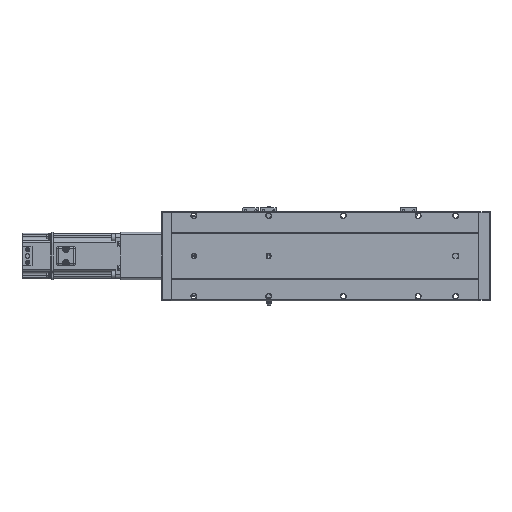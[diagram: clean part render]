
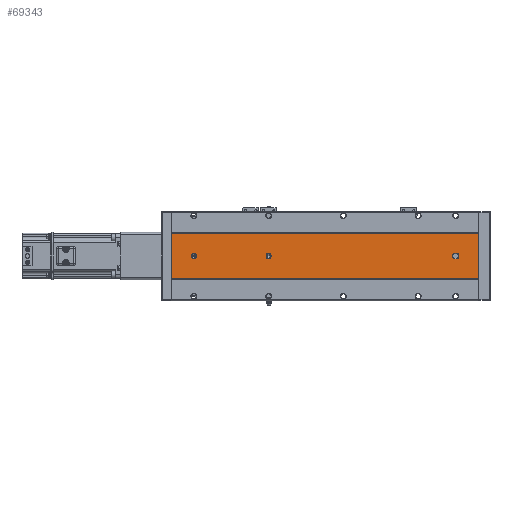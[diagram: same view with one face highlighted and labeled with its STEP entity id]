
A CAD part, front view. The second image highlights one B-rep face of the part: STEP entity #69343.
In plain terms, the highlighted planar face has unit normal (0, -1, 0).
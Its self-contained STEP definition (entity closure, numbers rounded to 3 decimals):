
#771 = DIRECTION ( 'NONE',  ( 0., 0., -1. ) ) ;
#1657 = FACE_BOUND ( 'NONE', #18562, .T. ) ;
#1857 = CARTESIAN_POINT ( 'NONE',  ( -69.892, -52.848, 0. ) ) ;
#2516 = CIRCLE ( 'NONE', #43397, 3.5 ) ;
#2546 = CARTESIAN_POINT ( 'NONE',  ( -39.892, -52.848, 30. ) ) ;
#3189 = CARTESIAN_POINT ( 'NONE',  ( -69.892, -52.848, 411. ) ) ;
#3267 = EDGE_CURVE ( 'NONE', #60971, #44286, #61343, .T. ) ;
#3368 = DIRECTION ( 'NONE',  ( 1., 0., 0. ) ) ;
#3645 = CARTESIAN_POINT ( 'NONE',  ( -43.392, -52.848, 411. ) ) ;
#3952 = VERTEX_POINT ( 'NONE', #10927 ) ;
#4897 = EDGE_CURVE ( 'NONE', #38826, #60971, #55894, .T. ) ;
#5091 = VERTEX_POINT ( 'NONE', #14992 ) ;
#6332 = CARTESIAN_POINT ( 'NONE',  ( -9.892, -52.848, 411. ) ) ;
#6377 = CARTESIAN_POINT ( 'NONE',  ( -9.892, -52.848, 411. ) ) ;
#6966 = DIRECTION ( 'NONE',  ( 0., 0., 1. ) ) ;
#7416 = AXIS2_PLACEMENT_3D ( 'NONE', #57553, #57268, #17615 ) ;
#8125 = CARTESIAN_POINT ( 'NONE',  ( -36.392, -52.848, 411. ) ) ;
#8173 = CIRCLE ( 'NONE', #45330, 3.5 ) ;
#9003 = CARTESIAN_POINT ( 'NONE',  ( -39.892, -52.848, 381. ) ) ;
#9189 = CARTESIAN_POINT ( 'NONE',  ( -69.892, -52.848, 0. ) ) ;
#9942 = EDGE_CURVE ( 'NONE', #52234, #38382, #20712, .T. ) ;
#10927 = CARTESIAN_POINT ( 'NONE',  ( -39.892, -52.848, 284.5 ) ) ;
#11076 = CARTESIAN_POINT ( 'NONE',  ( -39.892, -52.848, 277.5 ) ) ;
#11934 = EDGE_CURVE ( 'NONE', #54588, #3952, #73059, .T. ) ;
#11938 = EDGE_LOOP ( 'NONE', ( #31802, #84729, #50778, #56110 ) ) ;
#12107 = FACE_BOUND ( 'NONE', #52832, .T. ) ;
#14992 = CARTESIAN_POINT ( 'NONE',  ( -43.392, -52.848, 32. ) ) ;
#15594 = VECTOR ( 'NONE', #56358, 1000. ) ;
#15683 = PLANE ( 'NONE',  #77227 ) ;
#16236 = DIRECTION ( 'NONE',  ( 0., 0., 1. ) ) ;
#16575 = EDGE_CURVE ( 'NONE', #27485, #62091, #2516, .T. ) ;
#17099 = AXIS2_PLACEMENT_3D ( 'NONE', #9003, #49498, #16236 ) ;
#17315 = ORIENTED_EDGE ( 'NONE', *, *, #37164, .T. ) ;
#17615 = DIRECTION ( 'NONE',  ( 0., 0., 1. ) ) ;
#18151 = VERTEX_POINT ( 'NONE', #25081 ) ;
#18562 = EDGE_LOOP ( 'NONE', ( #19593, #21363 ) ) ;
#19198 = EDGE_CURVE ( 'NONE', #18151, #52234, #8173, .T. ) ;
#19593 = ORIENTED_EDGE ( 'NONE', *, *, #11934, .T. ) ;
#20712 = CIRCLE ( 'NONE', #51956, 3.5 ) ;
#21363 = ORIENTED_EDGE ( 'NONE', *, *, #35722, .T. ) ;
#21699 = DIRECTION ( 'NONE',  ( 0., 0., 1. ) ) ;
#21842 = AXIS2_PLACEMENT_3D ( 'NONE', #42106, #55506, #21699 ) ;
#22560 = CIRCLE ( 'NONE', #50217, 3.5 ) ;
#22774 = CARTESIAN_POINT ( 'NONE',  ( -39.892, -52.848, 381. ) ) ;
#23525 = DIRECTION ( 'NONE',  ( 0., 1., 0. ) ) ;
#25080 = VERTEX_POINT ( 'NONE', #58936 ) ;
#25081 = CARTESIAN_POINT ( 'NONE',  ( -36.392, -52.848, 30. ) ) ;
#25618 = FACE_BOUND ( 'NONE', #40602, .T. ) ;
#26482 = DIRECTION ( 'NONE',  ( 0., 0., -1. ) ) ;
#27485 = VERTEX_POINT ( 'NONE', #49289 ) ;
#29949 = ORIENTED_EDGE ( 'NONE', *, *, #81858, .T. ) ;
#30362 = CARTESIAN_POINT ( 'NONE',  ( -39.892, -52.848, 26.5 ) ) ;
#31768 = CARTESIAN_POINT ( 'NONE',  ( -69.892, -52.848, 411. ) ) ;
#31802 = ORIENTED_EDGE ( 'NONE', *, *, #3267, .T. ) ;
#35722 = EDGE_CURVE ( 'NONE', #3952, #54588, #22560, .T. ) ;
#36179 = DIRECTION ( 'NONE',  ( 0., 1., 0. ) ) ;
#36405 = LINE ( 'NONE', #3645, #15594 ) ;
#37164 = EDGE_CURVE ( 'NONE', #5091, #25080, #80372, .T. ) ;
#38382 = VERTEX_POINT ( 'NONE', #59078 ) ;
#38826 = VERTEX_POINT ( 'NONE', #31768 ) ;
#39889 = CARTESIAN_POINT ( 'NONE',  ( -39.892, -52.848, 30. ) ) ;
#40515 = VERTEX_POINT ( 'NONE', #6377 ) ;
#40602 = EDGE_LOOP ( 'NONE', ( #77656, #29949 ) ) ;
#42106 = CARTESIAN_POINT ( 'NONE',  ( -39.892, -52.848, 32. ) ) ;
#43001 = DIRECTION ( 'NONE',  ( 0., 0., 1. ) ) ;
#43310 = VECTOR ( 'NONE', #59119, 1000. ) ;
#43397 = AXIS2_PLACEMENT_3D ( 'NONE', #22774, #36179, #48770 ) ;
#43657 = EDGE_CURVE ( 'NONE', #38382, #5091, #36405, .T. ) ;
#44286 = VERTEX_POINT ( 'NONE', #84477 ) ;
#44924 = LINE ( 'NONE', #6332, #80362 ) ;
#45330 = AXIS2_PLACEMENT_3D ( 'NONE', #2546, #83218, #76214 ) ;
#46058 = CARTESIAN_POINT ( 'NONE',  ( -69.892, -52.848, 411. ) ) ;
#46137 = EDGE_CURVE ( 'NONE', #38826, #40515, #71478, .T. ) ;
#46316 = DIRECTION ( 'NONE',  ( 0., 1., 0. ) ) ;
#47545 = VECTOR ( 'NONE', #26482, 1000. ) ;
#47653 = ORIENTED_EDGE ( 'NONE', *, *, #43657, .T. ) ;
#48770 = DIRECTION ( 'NONE',  ( 0., 0., 1. ) ) ;
#49289 = CARTESIAN_POINT ( 'NONE',  ( -39.892, -52.848, 377.5 ) ) ;
#49498 = DIRECTION ( 'NONE',  ( 0., 1., 0. ) ) ;
#49703 = CARTESIAN_POINT ( 'NONE',  ( -39.892, -52.848, 281. ) ) ;
#49921 = VECTOR ( 'NONE', #3368, 1000. ) ;
#50217 = AXIS2_PLACEMENT_3D ( 'NONE', #49703, #50291, #43001 ) ;
#50291 = DIRECTION ( 'NONE',  ( 0., 1., 0. ) ) ;
#50664 = FACE_OUTER_BOUND ( 'NONE', #11938, .T. ) ;
#50778 = ORIENTED_EDGE ( 'NONE', *, *, #46137, .F. ) ;
#51357 = ORIENTED_EDGE ( 'NONE', *, *, #61514, .T. ) ;
#51956 = AXIS2_PLACEMENT_3D ( 'NONE', #39889, #46316, #6966 ) ;
#52234 = VERTEX_POINT ( 'NONE', #30362 ) ;
#52832 = EDGE_LOOP ( 'NONE', ( #47653, #17315, #51357, #79914, #54799 ) ) ;
#54588 = VERTEX_POINT ( 'NONE', #11076 ) ;
#54799 = ORIENTED_EDGE ( 'NONE', *, *, #9942, .T. ) ;
#55506 = DIRECTION ( 'NONE',  ( 0., 1., 0. ) ) ;
#55894 = LINE ( 'NONE', #46058, #47545 ) ;
#56110 = ORIENTED_EDGE ( 'NONE', *, *, #4897, .T. ) ;
#56358 = DIRECTION ( 'NONE',  ( 0., 0., 1. ) ) ;
#57268 = DIRECTION ( 'NONE',  ( 0., 1., 0. ) ) ;
#57553 = CARTESIAN_POINT ( 'NONE',  ( -39.892, -52.848, 281. ) ) ;
#58936 = CARTESIAN_POINT ( 'NONE',  ( -36.392, -52.848, 32. ) ) ;
#59078 = CARTESIAN_POINT ( 'NONE',  ( -43.392, -52.848, 30. ) ) ;
#59119 = DIRECTION ( 'NONE',  ( 1., 0., 0. ) ) ;
#60580 = DIRECTION ( 'NONE',  ( 0., 0., -1. ) ) ;
#60611 = EDGE_CURVE ( 'NONE', #40515, #44286, #44924, .T. ) ;
#60971 = VERTEX_POINT ( 'NONE', #1857 ) ;
#61343 = LINE ( 'NONE', #9189, #49921 ) ;
#61514 = EDGE_CURVE ( 'NONE', #25080, #18151, #77078, .T. ) ;
#62091 = VERTEX_POINT ( 'NONE', #83686 ) ;
#69343 = ADVANCED_FACE ( 'NONE', ( #12107, #1657, #25618, #50664 ), #15683, .F. ) ;
#70822 = VECTOR ( 'NONE', #60580, 1000. ) ;
#71478 = LINE ( 'NONE', #85648, #43310 ) ;
#73059 = CIRCLE ( 'NONE', #7416, 3.5 ) ;
#76214 = DIRECTION ( 'NONE',  ( 0., 0., 1. ) ) ;
#77078 = LINE ( 'NONE', #8125, #70822 ) ;
#77227 = AXIS2_PLACEMENT_3D ( 'NONE', #3189, #23525, #83575 ) ;
#77656 = ORIENTED_EDGE ( 'NONE', *, *, #16575, .T. ) ;
#79914 = ORIENTED_EDGE ( 'NONE', *, *, #19198, .T. ) ;
#80362 = VECTOR ( 'NONE', #771, 1000. ) ;
#80372 = CIRCLE ( 'NONE', #21842, 3.5 ) ;
#81858 = EDGE_CURVE ( 'NONE', #62091, #27485, #83558, .T. ) ;
#83218 = DIRECTION ( 'NONE',  ( 0., 1., 0. ) ) ;
#83558 = CIRCLE ( 'NONE', #17099, 3.5 ) ;
#83575 = DIRECTION ( 'NONE',  ( 0., 0., 1. ) ) ;
#83686 = CARTESIAN_POINT ( 'NONE',  ( -39.892, -52.848, 384.5 ) ) ;
#84477 = CARTESIAN_POINT ( 'NONE',  ( -9.892, -52.848, 0. ) ) ;
#84729 = ORIENTED_EDGE ( 'NONE', *, *, #60611, .F. ) ;
#85648 = CARTESIAN_POINT ( 'NONE',  ( -69.892, -52.848, 411. ) ) ;
